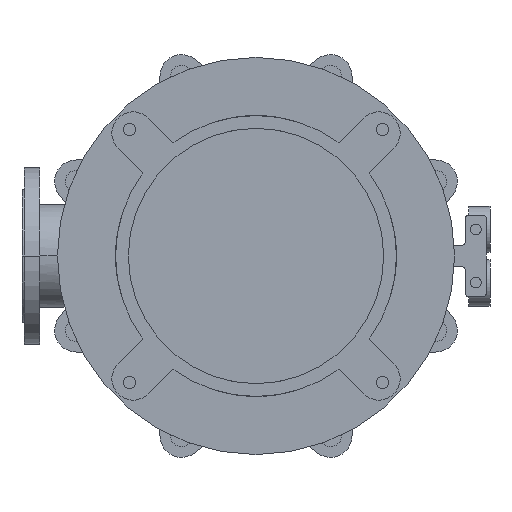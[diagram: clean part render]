
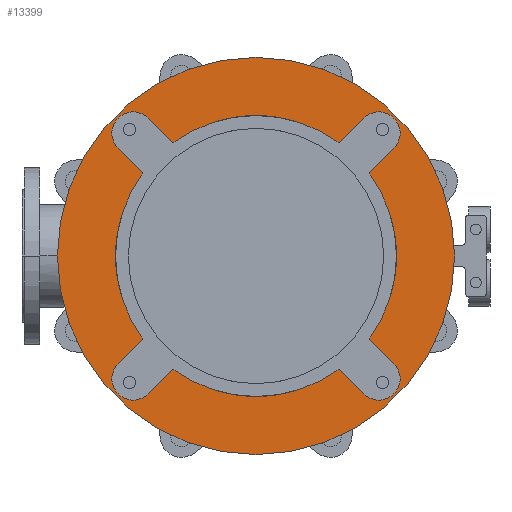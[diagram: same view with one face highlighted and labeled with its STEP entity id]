
A CAD part, front view. The second image highlights one B-rep face of the part: STEP entity #13399.
In plain terms, the highlighted planar face has unit normal (0, -1, 0).
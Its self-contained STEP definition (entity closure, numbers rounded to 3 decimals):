
#3033=CARTESIAN_POINT('',(0.,-25.,0.));
#3034=DIRECTION('',(0.,1.,0.));
#3035=DIRECTION('',(0.592,0.,-0.806));
#3036=AXIS2_PLACEMENT_3D('',#3033,#3034,#3035);
#3051=CARTESIAN_POINT('',(0.,-25.,0.));
#3052=DIRECTION('',(0.,1.,0.));
#3053=DIRECTION('',(0.806,0.,0.592));
#3054=AXIS2_PLACEMENT_3D('',#3051,#3052,#3053);
#3078=CARTESIAN_POINT('',(0.,-25.,0.));
#3079=DIRECTION('',(0.,1.,0.));
#3080=DIRECTION('',(-0.806,0.,-0.592));
#3081=AXIS2_PLACEMENT_3D('',#3078,#3079,#3080);
#3087=CARTESIAN_POINT('',(0.,-25.,0.));
#3088=DIRECTION('',(0.,1.,0.));
#3089=DIRECTION('',(-0.592,0.,0.806));
#3090=AXIS2_PLACEMENT_3D('',#3087,#3088,#3089);
#3265=CARTESIAN_POINT('',(0.,-25.,0.));
#3266=DIRECTION('',(0.,-1.,0.));
#3267=DIRECTION('',(-1.,0.,0.));
#3268=AXIS2_PLACEMENT_3D('',#3265,#3266,#3267);
#3270=CARTESIAN_POINT('',(0.,-25.,0.));
#3271=DIRECTION('',(0.,1.,0.));
#3272=DIRECTION('',(-1.,0.,0.));
#3273=AXIS2_PLACEMENT_3D('',#3270,#3271,#3272);
#3275=CARTESIAN_POINT('',(-173.241,-25.,173.241));
#3276=DIRECTION('',(0.,-1.,0.));
#3277=DIRECTION('',(0.707,0.,0.707));
#3278=AXIS2_PLACEMENT_3D('',#3275,#3276,#3277);
#3280=DIRECTION('',(0.707,0.,-0.707));
#3281=VECTOR('',#3280,49.286);
#3282=CARTESIAN_POINT('',(-194.454,-25.,152.028));
#3283=LINE('',#3282,#3281);
#3284=DIRECTION('',(-0.707,0.,-0.707));
#3285=VECTOR('',#3284,49.286);
#3286=CARTESIAN_POINT('',(-159.604,-25.,-117.178));
#3287=LINE('',#3286,#3285);
#3288=CARTESIAN_POINT('',(-173.241,-25.,-173.241));
#3289=DIRECTION('',(0.,-1.,0.));
#3290=DIRECTION('',(-0.707,0.,0.707));
#3291=AXIS2_PLACEMENT_3D('',#3288,#3289,#3290);
#3293=DIRECTION('',(0.707,0.,0.707));
#3294=VECTOR('',#3293,49.286);
#3295=CARTESIAN_POINT('',(-152.028,-25.,-194.454));
#3296=LINE('',#3295,#3294);
#3297=DIRECTION('',(0.707,0.,-0.707));
#3298=VECTOR('',#3297,49.286);
#3299=CARTESIAN_POINT('',(117.178,-25.,-159.604));
#3300=LINE('',#3299,#3298);
#3301=CARTESIAN_POINT('',(173.241,-25.,-173.241));
#3302=DIRECTION('',(0.,-1.,0.));
#3303=DIRECTION('',(-0.707,0.,-0.707));
#3304=AXIS2_PLACEMENT_3D('',#3301,#3302,#3303);
#3306=DIRECTION('',(-0.707,0.,0.707));
#3307=VECTOR('',#3306,49.286);
#3308=CARTESIAN_POINT('',(194.454,-25.,-152.028));
#3309=LINE('',#3308,#3307);
#3310=DIRECTION('',(0.707,0.,0.707));
#3311=VECTOR('',#3310,49.286);
#3312=CARTESIAN_POINT('',(159.604,-25.,117.178));
#3313=LINE('',#3312,#3311);
#3314=CARTESIAN_POINT('',(173.241,-25.,173.241));
#3315=DIRECTION('',(0.,-1.,0.));
#3316=DIRECTION('',(0.707,0.,-0.707));
#3317=AXIS2_PLACEMENT_3D('',#3314,#3315,#3316);
#3319=DIRECTION('',(-0.707,0.,-0.707));
#3320=VECTOR('',#3319,49.286);
#3321=CARTESIAN_POINT('',(152.028,-25.,194.454));
#3322=LINE('',#3321,#3320);
#3323=DIRECTION('',(-0.707,0.,0.707));
#3324=VECTOR('',#3323,49.286);
#3325=CARTESIAN_POINT('',(-117.178,-25.,159.604));
#3326=LINE('',#3325,#3324);
#8375=CARTESIAN_POINT('',(-280.,-25.,0.));
#8376=CARTESIAN_POINT('',(280.,-25.,0.));
#8377=VERTEX_POINT('',#8375);
#8378=VERTEX_POINT('',#8376);
#8399=CARTESIAN_POINT('',(-194.454,-25.,-152.028));
#8400=CARTESIAN_POINT('',(-152.028,-25.,-194.454));
#8401=VERTEX_POINT('',#8399);
#8402=VERTEX_POINT('',#8400);
#8403=CARTESIAN_POINT('',(-117.178,-25.,-159.604));
#8404=VERTEX_POINT('',#8403);
#8405=CARTESIAN_POINT('',(-159.604,-25.,-117.178));
#8406=VERTEX_POINT('',#8405);
#8415=CARTESIAN_POINT('',(152.028,-25.,-194.454));
#8416=CARTESIAN_POINT('',(194.454,-25.,-152.028));
#8417=VERTEX_POINT('',#8415);
#8418=VERTEX_POINT('',#8416);
#8419=CARTESIAN_POINT('',(159.604,-25.,-117.178));
#8420=VERTEX_POINT('',#8419);
#8421=CARTESIAN_POINT('',(117.178,-25.,-159.604));
#8422=VERTEX_POINT('',#8421);
#8431=CARTESIAN_POINT('',(194.454,-25.,152.028));
#8432=CARTESIAN_POINT('',(152.028,-25.,194.454));
#8433=VERTEX_POINT('',#8431);
#8434=VERTEX_POINT('',#8432);
#8435=CARTESIAN_POINT('',(117.178,-25.,159.604));
#8436=VERTEX_POINT('',#8435);
#8437=CARTESIAN_POINT('',(159.604,-25.,117.178));
#8438=VERTEX_POINT('',#8437);
#8447=CARTESIAN_POINT('',(-152.028,-25.,194.454));
#8448=CARTESIAN_POINT('',(-194.454,-25.,152.028));
#8449=VERTEX_POINT('',#8447);
#8450=VERTEX_POINT('',#8448);
#8451=CARTESIAN_POINT('',(-159.604,-25.,117.178));
#8452=VERTEX_POINT('',#8451);
#8453=CARTESIAN_POINT('',(-117.178,-25.,159.604));
#8454=VERTEX_POINT('',#8453);
#13359=CARTESIAN_POINT('',(0.,-25.,0.));
#13360=DIRECTION('',(0.,-1.,0.));
#13361=DIRECTION('',(-1.,0.,0.));
#13362=AXIS2_PLACEMENT_3D('',#13359,#13360,#13361);
#13363=PLANE('',#13362);
#13365=ORIENTED_EDGE('',*,*,#13364,.F.);
#13367=ORIENTED_EDGE('',*,*,#13366,.T.);
#13368=EDGE_LOOP('',(#13365,#13367));
#13369=FACE_OUTER_BOUND('',#13368,.F.);
#13371=ORIENTED_EDGE('',*,*,#13370,.T.);
#13373=ORIENTED_EDGE('',*,*,#13372,.T.);
#13374=ORIENTED_EDGE('',*,*,#13312,.F.);
#13376=ORIENTED_EDGE('',*,*,#13375,.T.);
#13378=ORIENTED_EDGE('',*,*,#13377,.T.);
#13380=ORIENTED_EDGE('',*,*,#13379,.T.);
#13381=ORIENTED_EDGE('',*,*,#13265,.F.);
#13382=ORIENTED_EDGE('',*,*,#13349,.T.);
#13384=ORIENTED_EDGE('',*,*,#13383,.T.);
#13386=ORIENTED_EDGE('',*,*,#13385,.T.);
#13387=ORIENTED_EDGE('',*,*,#13286,.F.);
#13389=ORIENTED_EDGE('',*,*,#13388,.T.);
#13391=ORIENTED_EDGE('',*,*,#13390,.T.);
#13393=ORIENTED_EDGE('',*,*,#13392,.T.);
#13394=ORIENTED_EDGE('',*,*,#13330,.F.);
#13396=ORIENTED_EDGE('',*,*,#13395,.T.);
#13397=EDGE_LOOP('',(#13371,#13373,#13374,#13376,#13378,#13380,#13381,#13382,
#13384,#13386,#13387,#13389,#13391,#13393,#13394,#13396));
#13398=FACE_BOUND('',#13397,.F.);
#13399=ADVANCED_FACE('',(#13369,#13398),#13363,.T.);
#3037=CIRCLE('',#3036,198.);
#3055=CIRCLE('',#3054,198.);
#3082=CIRCLE('',#3081,198.);
#3091=CIRCLE('',#3090,198.);
#3269=CIRCLE('',#3268,280.);
#3274=CIRCLE('',#3273,280.);
#3279=CIRCLE('',#3278,30.);
#3292=CIRCLE('',#3291,30.);
#3305=CIRCLE('',#3304,30.);
#3318=CIRCLE('',#3317,30.);
#13265=EDGE_CURVE('',#8422,#8404,#3037,.T.);
#13286=EDGE_CURVE('',#8438,#8420,#3055,.T.);
#13312=EDGE_CURVE('',#8406,#8452,#3082,.T.);
#13330=EDGE_CURVE('',#8454,#8436,#3091,.T.);
#13349=EDGE_CURVE('',#8422,#8417,#3300,.T.);
#13364=EDGE_CURVE('',#8377,#8378,#3269,.T.);
#13366=EDGE_CURVE('',#8377,#8378,#3274,.T.);
#13370=EDGE_CURVE('',#8449,#8450,#3279,.T.);
#13372=EDGE_CURVE('',#8450,#8452,#3283,.T.);
#13375=EDGE_CURVE('',#8406,#8401,#3287,.T.);
#13377=EDGE_CURVE('',#8401,#8402,#3292,.T.);
#13379=EDGE_CURVE('',#8402,#8404,#3296,.T.);
#13383=EDGE_CURVE('',#8417,#8418,#3305,.T.);
#13385=EDGE_CURVE('',#8418,#8420,#3309,.T.);
#13388=EDGE_CURVE('',#8438,#8433,#3313,.T.);
#13390=EDGE_CURVE('',#8433,#8434,#3318,.T.);
#13392=EDGE_CURVE('',#8434,#8436,#3322,.T.);
#13395=EDGE_CURVE('',#8454,#8449,#3326,.T.);
